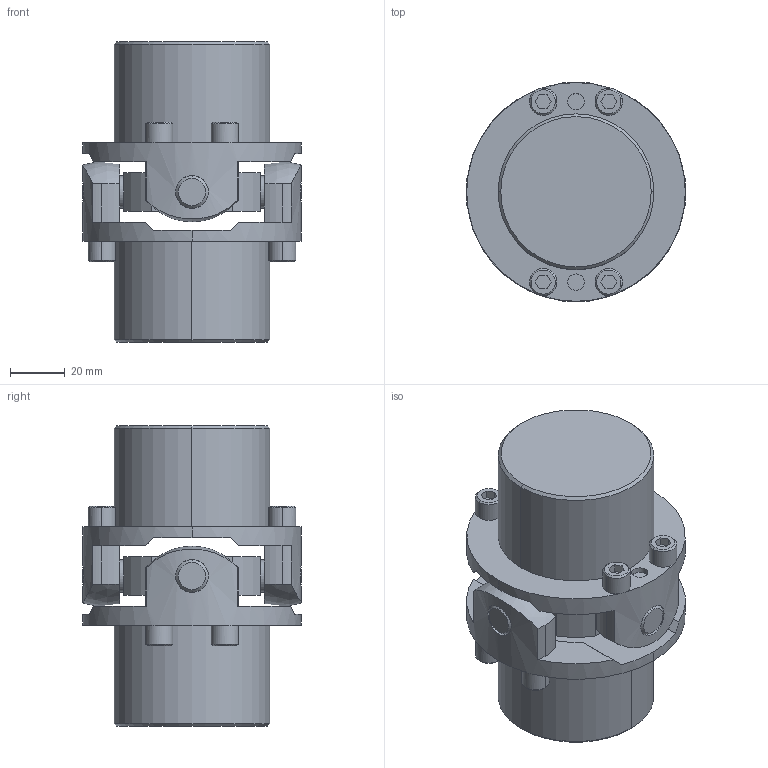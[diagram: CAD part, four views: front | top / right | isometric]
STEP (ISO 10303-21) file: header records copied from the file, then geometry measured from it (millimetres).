
FILE_DESCRIPTION((''),'2;1');
FILE_NAME('UCR-80.stp','2013-05-13T10:01:22',(''),(''),'AutoCAD STEP 2000i','AutoCAD 2000i',', , ');
FILE_SCHEMA(('CONFIG_CONTROL_DESIGN'));
Length unit declared in the file: millimetre
Products named in the file (7): UCR-80; 忣兜1; UCR-8002; UCNF-8002; UCN80-B015-1; UCN80-B015; UCN80-SEN
Assembly tree (6 placements, depth 2):
  UCR-80
    忣兜1
    UCR-8002
    UCNF-8002
    UCN80-B015-1
    UCN80-B015
    UCN80-SEN
Bounding box: 80 x 80 x 110 mm (x, y, z)
Volume: 293057.7 mm3; surface area: 51663.4 mm2
Topology: 1 solids, 1 shells, 218 faces, 553 edges, 366 vertices
Faces by surface type: plane 112, cylinder 74, cone 28, sphere 4
Entity records: 7178 total; most frequent: CARTESIAN_POINT 1533, DIRECTION 1239, ORIENTED_EDGE 1092, EDGE_CURVE 546, AXIS2_PLACEMENT_3D 473, VERTEX_POINT 352, VECTOR 293, LINE 293
